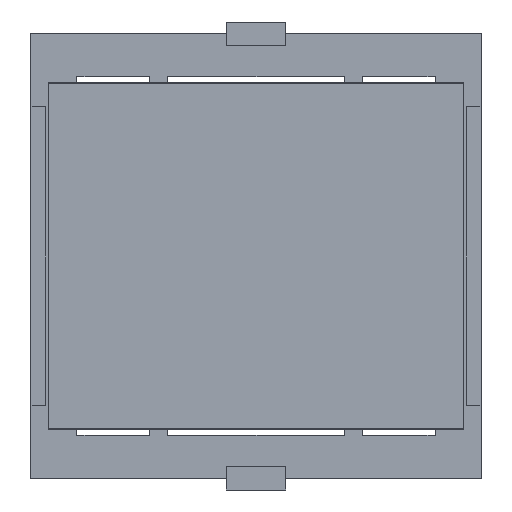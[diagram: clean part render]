
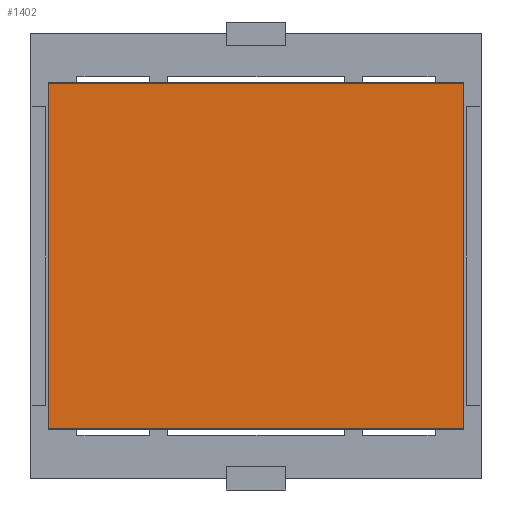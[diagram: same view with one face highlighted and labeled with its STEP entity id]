
A CAD part, front view. The second image highlights one B-rep face of the part: STEP entity #1402.
In plain terms, the highlighted planar face has unit normal (0, -1, 0).
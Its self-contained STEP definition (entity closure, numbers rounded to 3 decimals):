
#60 = EDGE_CURVE ( 'NONE', #5812, #3239, #3751, .T. ) ;
#276 = EDGE_CURVE ( 'NONE', #3239, #1385, #961, .T. ) ;
#336 = VECTOR ( 'NONE', #4644, 1000. ) ;
#455 = FACE_OUTER_BOUND ( 'NONE', #5770, .T. ) ;
#516 = ORIENTED_EDGE ( 'NONE', *, *, #5602, .F. ) ;
#961 = LINE ( 'NONE', #5231, #4928 ) ;
#1066 = CARTESIAN_POINT ( 'NONE',  ( -15.712, -18.701, -2.749 ) ) ;
#1385 = VERTEX_POINT ( 'NONE', #2027 ) ;
#1402 = ADVANCED_FACE ( 'NONE', ( #455 ), #4214, .F. ) ;
#1681 = CARTESIAN_POINT ( 'NONE',  ( -15.712, -18.701, 26.207 ) ) ;
#1997 = CARTESIAN_POINT ( 'NONE',  ( 19.086, -18.701, 26.207 ) ) ;
#2027 = CARTESIAN_POINT ( 'NONE',  ( 19.086, -18.701, -2.749 ) ) ;
#2056 = EDGE_CURVE ( 'NONE', #1385, #6308, #4295, .T. ) ;
#2117 = DIRECTION ( 'NONE',  ( 0., 0., -1. ) ) ;
#2130 = VECTOR ( 'NONE', #2777, 1000. ) ;
#2285 = DIRECTION ( 'NONE',  ( 0., 1., 0. ) ) ;
#2684 = DIRECTION ( 'NONE',  ( -1., 0., 0. ) ) ;
#2777 = DIRECTION ( 'NONE',  ( 1., 0., 0. ) ) ;
#2812 = DIRECTION ( 'NONE',  ( 0., 0., 1. ) ) ;
#2961 = ORIENTED_EDGE ( 'NONE', *, *, #2056, .F. ) ;
#3112 = AXIS2_PLACEMENT_3D ( 'NONE', #4415, #2285, #2812 ) ;
#3119 = CARTESIAN_POINT ( 'NONE',  ( -15.712, -18.701, -2.749 ) ) ;
#3227 = CARTESIAN_POINT ( 'NONE',  ( -15.712, -18.701, 26.207 ) ) ;
#3239 = VERTEX_POINT ( 'NONE', #1997 ) ;
#3751 = LINE ( 'NONE', #3227, #2130 ) ;
#4034 = ORIENTED_EDGE ( 'NONE', *, *, #60, .F. ) ;
#4214 = PLANE ( 'NONE',  #3112 ) ;
#4294 = ORIENTED_EDGE ( 'NONE', *, *, #276, .F. ) ;
#4295 = LINE ( 'NONE', #1066, #5286 ) ;
#4415 = CARTESIAN_POINT ( 'NONE',  ( -15.712, -18.701, 26.207 ) ) ;
#4644 = DIRECTION ( 'NONE',  ( 0., 0., 1. ) ) ;
#4928 = VECTOR ( 'NONE', #2117, 1000. ) ;
#5088 = CARTESIAN_POINT ( 'NONE',  ( -15.712, -18.701, -2.749 ) ) ;
#5231 = CARTESIAN_POINT ( 'NONE',  ( 19.086, -18.701, -2.749 ) ) ;
#5286 = VECTOR ( 'NONE', #2684, 1000. ) ;
#5313 = LINE ( 'NONE', #3119, #336 ) ;
#5602 = EDGE_CURVE ( 'NONE', #6308, #5812, #5313, .T. ) ;
#5770 = EDGE_LOOP ( 'NONE', ( #516, #2961, #4294, #4034 ) ) ;
#5812 = VERTEX_POINT ( 'NONE', #1681 ) ;
#6308 = VERTEX_POINT ( 'NONE', #5088 ) ;
